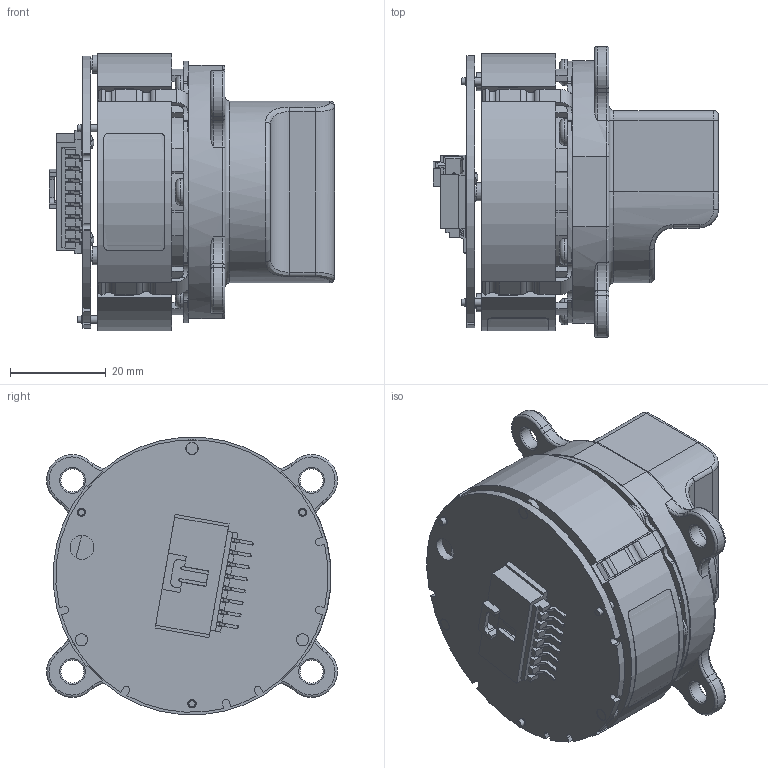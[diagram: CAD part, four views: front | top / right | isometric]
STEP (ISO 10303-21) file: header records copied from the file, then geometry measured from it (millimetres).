
FILE_DESCRIPTION (( 'STEP AP214' ), '1' );
FILE_NAME ('Cerotor 1000 - BLDC Motor.STEP', '2020-04-23T14:07:47', ( '' ), ( '' ), 'SwSTEP 2.0', 'SolidWorks 2019', '' );
FILE_SCHEMA (( 'AUTOMOTIVE_DESIGN' ));
Length unit declared in the file: millimetre
Products named in the file (14): PCB^PD01-MA-00A; Label^PD01-MA-00A; PD01-CU-00; PD03-SC-0; MB0112; PD38-PU-0; Cerotor 1000 - BLDC Motor; Connector^PD01-MA-00A; PD37-BO-0; Mol^PD01-MA-00A; PD37-BB-0; Lam^PD01-MA-00A; Pins^PD01-MA-00A; PD01-MA-00A
Assembly tree (20 placements, depth 4):
  Cerotor 1000 - BLDC Motor
    PD38-PU-0
      PD03-SC-0  x6
      PD01-CU-00
      MB0112
      PD37-BO-0
        PD37-BB-0
    PD01-MA-00A
      Lam^PD01-MA-00A
      Mol^PD01-MA-00A
      PCB^PD01-MA-00A
      Pins^PD01-MA-00A  x3
      Connector^PD01-MA-00A
      Label^PD01-MA-00A
Bounding box: 59.59 x 60.8 x 57.92 mm (x, y, z)
Volume: 62885.8 mm3; surface area: 48197.6 mm2
Topology: 17 solids, 17 shells, 1365 faces, 3708 edges, 2417 vertices
Faces by surface type: plane 761, cylinder 492, torus 70, bspline 21, cone 21
Full cylindrical faces by diameter (mm): 1.6 x15, 1.7 x3, 2.4 x6, 2.5 x9, 2.55 x3, 3 x2, 3.2 x2, 3.3 x6, 3.4 x2, 3.8 x3, 4.8 x4, 5 x1, 5.5 x6, 6.5 x2, 8.8 x2, 15 x2, 26 x1, 36.1 x1, 38 x1, 42.7 x1, 42.73 x1, 49.1 x1
Entity records: 45967 total; most frequent: CARTESIAN_POINT 9483, DIRECTION 7105, ORIENTED_EDGE 7000, EDGE_CURVE 3500, AXIS2_PLACEMENT_3D 2387, VERTEX_POINT 2335, VECTOR 2331, LINE 2331
